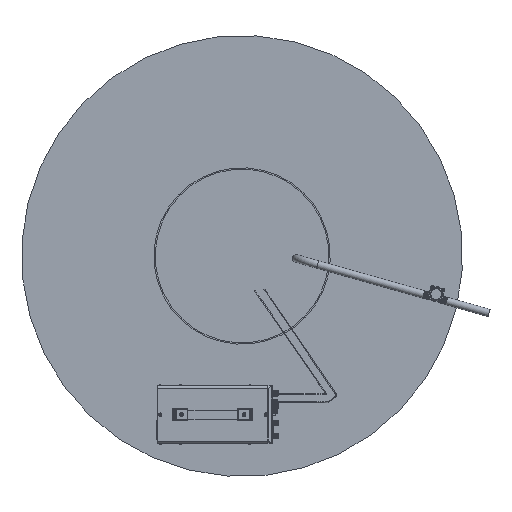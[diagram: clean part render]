
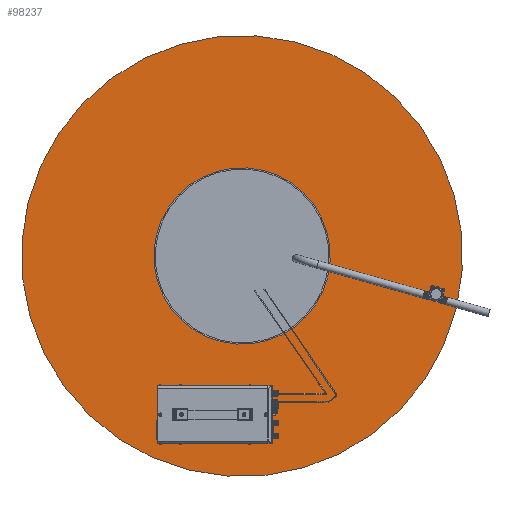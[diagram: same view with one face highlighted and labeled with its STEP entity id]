
A CAD part, front view. The second image highlights one B-rep face of the part: STEP entity #98237.
In plain terms, the highlighted planar face has unit normal (0, -1, 0) as drawn and (0, 0, -1) by its records, which use the part's own axes.
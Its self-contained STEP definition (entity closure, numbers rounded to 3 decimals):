
#5749=PLANE('',#104994);
#9678=FACE_OUTER_BOUND('',#15362,.T.);
#15362=EDGE_LOOP('',(#71112));
#40891=CIRCLE('',#104992,500.);
#43988=VERTEX_POINT('',#165160);
#54396=EDGE_CURVE('',#43988,#43988,#40891,.T.);
#71112=ORIENTED_EDGE('',*,*,#54396,.F.);
#98237=ADVANCED_FACE('',(#9678),#5749,.F.);
#104992=AXIS2_PLACEMENT_3D('',#165162,#114489,#114490);
#104994=AXIS2_PLACEMENT_3D('',#165164,#114493,#114494);
#114489=DIRECTION('center_axis',(0.,0.,
1.));
#114490=DIRECTION('ref_axis',(1.,0.,0.));
#114493=DIRECTION('center_axis',(0.,0.,
1.));
#114494=DIRECTION('ref_axis',(1.,0.,0.));
#165160=CARTESIAN_POINT('',(-500.,0.,0.));
#165162=CARTESIAN_POINT('Origin',(0.,0.,0.));
#165164=CARTESIAN_POINT('Origin',(0.,0.,
0.));
